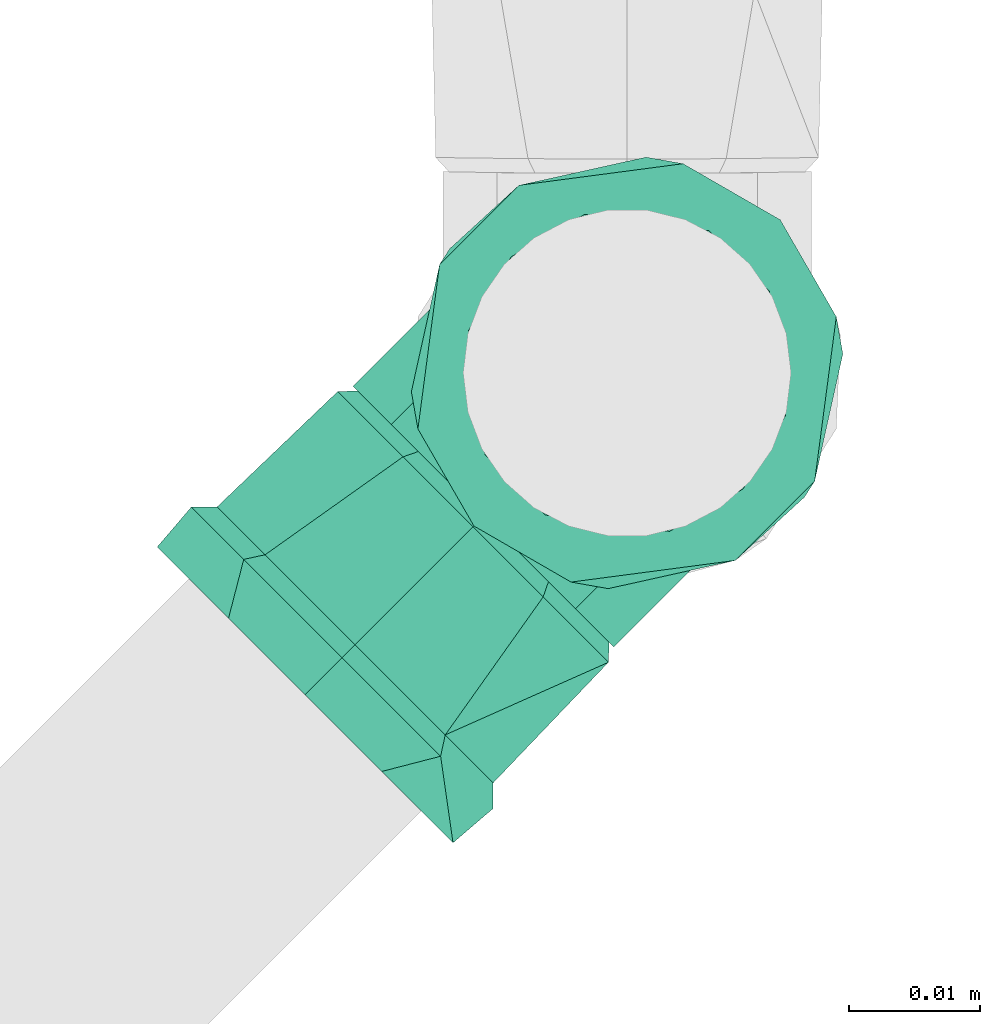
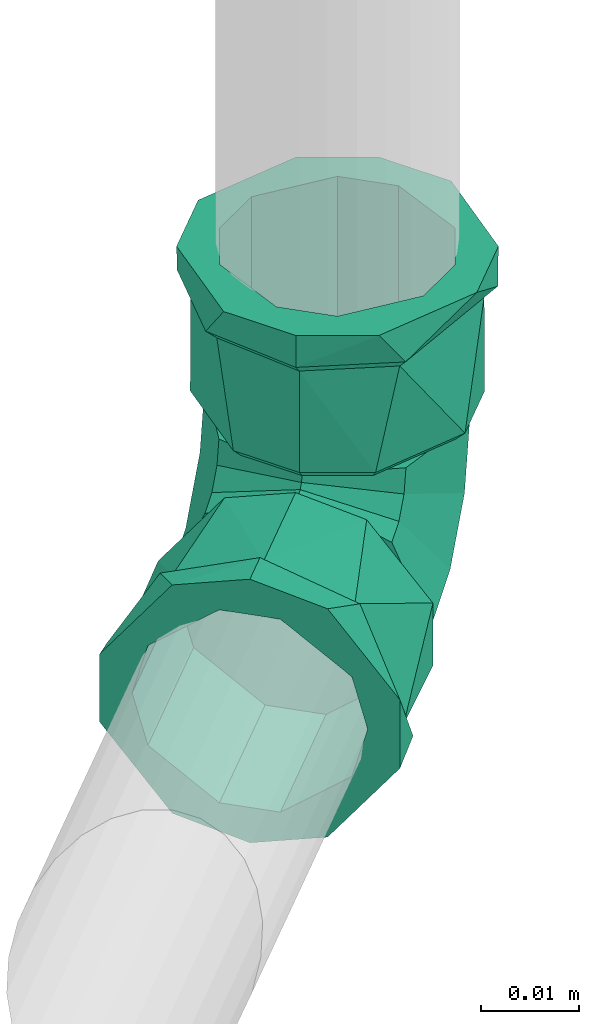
# One storey, part 335 of 589: 1 flow fitting.
"""IFC2X3 building model written with IfcOpenShell, lengths in millimetres."""

from ifc_helpers import new_model, entity, si_unit, converted_unit, derived_unit, direction, frame, origin, place, context, subcontext, project, spatial, faceted_brep, source, transform, mapped, material, type_object, type_shapes, element, save


model = new_model("IFC2X3")

# Units and contexts
model_context = context("Model", 3, precision=0.01, world=origin(), true_north=direction((6.123031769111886e-17, 1.0)))
body_context = subcontext(model_context, "Body", "Model", "MODEL_VIEW")
ifc_project = project(units=[si_unit("LENGTHUNIT", "METRE", prefix="MILLI"), si_unit("AREAUNIT", "SQUARE_METRE"), si_unit("VOLUMEUNIT", "CUBIC_METRE"), converted_unit("PLANEANGLEUNIT", "DEGREE", entity("IfcRatioMeasure", 0.017453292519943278), si_unit("PLANEANGLEUNIT", "RADIAN"), dimensions=[0, 0, 0, 0, 0, 0, 0]), si_unit("MASSUNIT", "GRAM", prefix="KILO"), derived_unit("MASSDENSITYUNIT", [(si_unit("MASSUNIT", "GRAM", prefix="KILO"), 1), (si_unit("LENGTHUNIT", "METRE"), -3)]), derived_unit("IONCONCENTRATIONUNIT", [(si_unit("MASSUNIT", "GRAM", prefix="KILO"), 1), (si_unit("LENGTHUNIT", "METRE"), -3)]), derived_unit("MOMENTOFINERTIAUNIT", [(si_unit("LENGTHUNIT", "METRE"), 4)]), si_unit("TIMEUNIT", "SECOND"), si_unit("FREQUENCYUNIT", "HERTZ"), si_unit("THERMODYNAMICTEMPERATUREUNIT", "DEGREE_CELSIUS"), derived_unit("THERMALTRANSMITTANCEUNIT", [(si_unit("MASSUNIT", "GRAM", prefix="KILO"), 1), (si_unit("THERMODYNAMICTEMPERATUREUNIT", "KELVIN"), -1), (si_unit("TIMEUNIT", "SECOND"), -3)]), derived_unit("THERMALCONDUCTANCEUNIT", [(si_unit("MASSUNIT", "GRAM", prefix="KILO"), 1), (si_unit("THERMODYNAMICTEMPERATUREUNIT", "KELVIN"), -1), (si_unit("TIMEUNIT", "SECOND"), -3), (si_unit("LENGTHUNIT", "METRE"), 1)]), derived_unit("VOLUMETRICFLOWRATEUNIT", [(si_unit("LENGTHUNIT", "METRE"), 3), (si_unit("TIMEUNIT", "SECOND"), -1)]), derived_unit("MASSFLOWRATEUNIT", [(si_unit("MASSUNIT", "GRAM", prefix="KILO"), 1), (si_unit("TIMEUNIT", "SECOND"), -1)]), derived_unit("ROTATIONALFREQUENCYUNIT", [(si_unit("TIMEUNIT", "SECOND"), -1)]), si_unit("ELECTRICCURRENTUNIT", "AMPERE"), si_unit("ELECTRICVOLTAGEUNIT", "VOLT"), si_unit("POWERUNIT", "WATT"), si_unit("FORCEUNIT", "NEWTON", prefix="KILO"), si_unit("ILLUMINANCEUNIT", "LUX"), si_unit("LUMINOUSFLUXUNIT", "LUMEN"), si_unit("LUMINOUSINTENSITYUNIT", "CANDELA"), derived_unit("USERDEFINED", [(si_unit("MASSUNIT", "GRAM", prefix="KILO"), -1), (si_unit("LENGTHUNIT", "METRE"), -2), (si_unit("TIMEUNIT", "SECOND"), 3), (si_unit("LUMINOUSFLUXUNIT", "LUMEN"), 1)]), derived_unit("USERDEFINED", [(si_unit("MASSUNIT", "GRAM", prefix="KILO"), 1), (si_unit("TIMEUNIT", "SECOND"), -3), (si_unit("LENGTHUNIT", "METRE"), 3), (si_unit("ELECTRICCURRENTUNIT", "AMPERE"), -2)]), derived_unit("SOUNDPOWERUNIT", [(si_unit("MASSUNIT", "GRAM", prefix="KILO"), 1), (si_unit("TIMEUNIT", "SECOND"), -3), (si_unit("LENGTHUNIT", "METRE"), 2)]), derived_unit("SOUNDPRESSUREUNIT", [(si_unit("MASSUNIT", "GRAM", prefix="KILO"), 1), (si_unit("LENGTHUNIT", "METRE"), -1), (si_unit("TIMEUNIT", "SECOND"), -2)]), derived_unit("LINEARVELOCITYUNIT", [(si_unit("LENGTHUNIT", "METRE"), 1), (si_unit("TIMEUNIT", "SECOND"), -1)]), si_unit("PRESSUREUNIT", "PASCAL"), derived_unit("USERDEFINED", [(si_unit("MASSUNIT", "GRAM", prefix="KILO"), 1), (si_unit("LENGTHUNIT", "METRE"), -2), (si_unit("TIMEUNIT", "SECOND"), -2)]), derived_unit("LINEARFORCEUNIT", [(si_unit("MASSUNIT", "GRAM", prefix="KILO"), 1), (si_unit("TIMEUNIT", "SECOND"), -2)]), derived_unit("PLANARFORCEUNIT", [(si_unit("MASSUNIT", "GRAM", prefix="KILO"), 1), (si_unit("LENGTHUNIT", "METRE"), -1), (si_unit("TIMEUNIT", "SECOND"), -2)]), derived_unit("SPECIFICHEATCAPACITYUNIT", [(si_unit("THERMODYNAMICTEMPERATUREUNIT", "KELVIN"), -1), (si_unit("LENGTHUNIT", "METRE"), 2), (si_unit("TIMEUNIT", "SECOND"), -2)]), derived_unit("HEATINGVALUEUNIT", [(si_unit("LENGTHUNIT", "METRE"), 2), (si_unit("TIMEUNIT", "SECOND"), -2)]), derived_unit("VAPORPERMEABILITYUNIT", [(si_unit("LENGTHUNIT", "METRE"), -1), (si_unit("TIMEUNIT", "SECOND"), 1)]), derived_unit("DYNAMICVISCOSITYUNIT", [(si_unit("MASSUNIT", "GRAM", prefix="KILO"), 1), (si_unit("TIMEUNIT", "SECOND"), -1), (si_unit("LENGTHUNIT", "METRE"), -1)]), derived_unit("THERMALEXPANSIONCOEFFICIENTUNIT", [(si_unit("THERMODYNAMICTEMPERATUREUNIT", "KELVIN"), -1)]), derived_unit("MODULUSOFELASTICITYUNIT", [(si_unit("MASSUNIT", "GRAM", prefix="KILO"), 1), (si_unit("LENGTHUNIT", "METRE"), -1), (si_unit("TIMEUNIT", "SECOND"), -2)]), derived_unit("ISOTHERMALMOISTURECAPACITYUNIT", [(si_unit("LENGTHUNIT", "METRE"), 3), (si_unit("MASSUNIT", "GRAM", prefix="KILO"), -1)]), derived_unit("MOISTUREDIFFUSIVITYUNIT", [(si_unit("TIMEUNIT", "SECOND"), -1), (si_unit("LENGTHUNIT", "METRE"), 2)])], contexts=[model_context])

# Site, building, storey
site_placement = place(None, origin())
site = spatial("IfcSite", under=ifc_project, at=site_placement, Name="Default", CompositionType="ELEMENT")
building_placement = place(site_placement, origin())
building = spatial("IfcBuilding", under=site, at=building_placement, CompositionType="ELEMENT")
storey_placement = place(building_placement, frame((0.0, 0.0, 100.0)))
storey = spatial("IfcBuildingStorey", under=building, at=storey_placement, Name="TÉRREO", CompositionType="ELEMENT", Elevation=100.0)

# Flow fitting
ifc_material = material(Name="PVC Marrom")
pipe_fitting_type = type_object("IfcPipeFittingType", Name="PVC Marrom Soldável_Joelho 45°_90°_Rodrigo MEP:Joelho", PredefinedType="NOTDEFINED", material=ifc_material)
shared_shape = source(origin(), body_context, "Body", "Brep", [
    faceted_brep([(3.908183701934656, 16.599981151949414, 14.585479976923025), (13.076999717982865, 16.599972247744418, 7.549999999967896), (15.10001612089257, 16.599970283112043, 0.0), (13.07699971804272, 16.599972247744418, -7.550000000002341), (3.9081837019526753, 16.599981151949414, -14.585479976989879), (-3.908151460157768, 16.59998874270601, -14.585479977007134), (-13.076967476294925, 16.59999764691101, -7.550000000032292), (-15.099983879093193, 16.59999961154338, 0.0), (-13.07696747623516, 16.59999764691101, 7.54999999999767), (-3.908151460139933, 16.59998874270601, 14.585479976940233), (-3.6338043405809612, 15.499988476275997, 13.561598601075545), (-12.15898161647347, 15.4999967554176, 7.019999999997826), (-14.039984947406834, 15.499998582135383, 0.0), (-12.158981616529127, 15.4999967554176, -7.020000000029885), (-3.633804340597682, 15.499988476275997, -13.56159860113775), (3.633834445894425, 15.499981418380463, -13.561598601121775), (12.159011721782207, 15.49997313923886, -7.0200000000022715), (14.040015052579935, 15.499971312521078, 0.0), (12.1590117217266, 15.49997313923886, 7.01999999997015), (3.633834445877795, 15.499981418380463, 13.561598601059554)], [[[0, 1, 2, 3, 4, 5, 6, 7, 8, 9]], [[10, 11, 12, 13, 14, 15, 16, 17, 18, 19]], [[3, 2, 17, 16]], [[4, 3, 16, 15]], [[15, 14, 5, 4]], [[6, 5, 14, 13]], [[7, 6, 13, 12]], [[8, 7, 12, 11]], [[9, 8, 11, 10]], [[10, 19, 0, 9]], [[1, 0, 19, 18]], [[2, 1, 18, 17]]]),
    faceted_brep([(-16.599984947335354, 3.908167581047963, 14.585479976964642), (-16.599984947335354, 13.076983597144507, 7.549999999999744), (-16.599984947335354, 15.100000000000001, 0.0), (-16.599984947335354, 13.076983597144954, -7.54999999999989), (-16.599984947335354, 3.9081675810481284, -14.58547997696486), (-16.599984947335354, -3.9081675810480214, -14.585479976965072), (-16.599984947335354, -13.0769835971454, -7.550000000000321), (-16.599984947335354, -15.099999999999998, 0.0), (-16.599984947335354, -13.076983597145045, 7.550000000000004), (-16.599984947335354, -3.908167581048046, 14.585479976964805), (-15.499984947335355, 12.158996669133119, 7.019999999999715), (-15.499984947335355, 3.6338193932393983, 13.561598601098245), (-15.499984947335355, -3.633819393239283, 13.56159860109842), (-15.499984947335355, -12.15899666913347, 7.020000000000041), (-15.499984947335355, -14.040000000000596, 0.0), (-15.499984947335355, -12.158996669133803, -7.020000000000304), (-15.499984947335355, -3.63381939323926, -13.561598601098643), (-15.499984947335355, 3.6338193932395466, -13.56159860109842), (-15.499984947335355, 12.158996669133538, -7.019999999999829), (-15.499984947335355, 14.03999999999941, 0.0)], [[[0, 1, 2, 3, 4, 5, 6, 7, 8, 9]], [[10, 11, 12, 13, 14, 15, 16, 17, 18, 19]], [[3, 2, 19, 18]], [[4, 3, 18, 17]], [[17, 16, 5, 4]], [[6, 5, 16, 15]], [[7, 6, 15, 14]], [[8, 7, 14, 13]], [[9, 8, 13, 12]], [[12, 11, 0, 9]], [[1, 0, 11, 10]], [[2, 1, 10, 19]]]),
    faceted_brep([(-34.69998494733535, -4.2705142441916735, -15.937776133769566), (-34.69998494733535, -6.250000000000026, -10.825317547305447), (-34.69998494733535, 0.0, -12.5), (-34.69998494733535, -14.289419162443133, -8.25000000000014), (-34.69998494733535, 4.270514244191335, -15.937776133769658), (-34.69998494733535, -12.074072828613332, -3.23523806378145), (-34.69998494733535, -16.499999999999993, 0.0), (-34.69998494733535, -12.074072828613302, 3.2352380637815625), (-34.69998494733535, -14.289419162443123, 8.249999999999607), (-34.69998494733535, -6.249999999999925, 10.825317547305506), (-34.69998494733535, -4.27051424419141, 15.937776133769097), (-34.69998494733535, 0.0, 12.5), (-34.69998494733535, 4.270514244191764, 15.937776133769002), (-34.69998494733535, 6.249999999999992, 10.825317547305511), (-34.69998494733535, 14.28941916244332, 8.249999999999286), (-34.69998494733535, 12.074072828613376, 3.2352380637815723), (-34.69998494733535, 16.500000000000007, 0.0), (-34.69998494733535, 12.074072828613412, -3.235238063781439), (-34.69998494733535, 14.289419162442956, -8.250000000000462), (-34.69998494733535, 6.250000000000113, -10.82531754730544), (-30.699984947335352, 16.5, 0.0), (-30.699984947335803, 12.639142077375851, 10.606700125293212), (-30.6999849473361, 2.8633833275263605, 16.249647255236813), (-30.699984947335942, -12.64180232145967, 10.603529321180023), (-30.699984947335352, -16.499999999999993, 0.0), (-30.699984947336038, -4.889209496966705, 13.426588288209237), (-30.69998494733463, -12.641802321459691, -10.603529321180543), (-30.69998494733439, -2.8674593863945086, -16.24892847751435), (-30.699984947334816, 12.639142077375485, -10.606700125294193), (-30.6999849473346, 4.885841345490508, -13.427814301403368), (-29.299984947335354, -15.099999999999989, 0.0), (-29.29998494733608, -11.56916454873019, 9.703835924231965), (-29.299984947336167, -4.474367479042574, 12.287362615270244), (-29.299984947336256, 2.6204295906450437, 14.870889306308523), (-29.29998494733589, 11.566730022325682, 9.706737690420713), (-29.29998494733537, 15.099999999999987, 0.0), (-29.299984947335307, 11.566730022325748, -9.706737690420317), (-29.29998494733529, 4.4712851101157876, -12.28848460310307), (-29.29998494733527, -2.6241598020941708, -14.870231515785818), (-29.299984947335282, -11.569164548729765, -9.703835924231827), (-16.599984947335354, 0.0, -12.5), (-16.599984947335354, -6.250000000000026, -10.825317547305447), (-16.599984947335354, -3.908167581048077, -14.585479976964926), (-16.599984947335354, 3.9081675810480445, -14.585479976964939), (-16.599984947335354, 6.250000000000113, -10.82531754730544), (-16.599984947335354, -13.076983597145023, -7.549999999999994), (-16.599984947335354, -12.074072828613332, -3.23523806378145), (-16.599984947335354, -15.099999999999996, 0.0), (-16.599984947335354, -12.074072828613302, 3.2352380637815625), (-16.599984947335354, -13.076983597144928, 7.550000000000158), (-16.599984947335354, -6.249999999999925, 10.825317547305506), (-16.599984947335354, -3.9081675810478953, 14.585479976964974), (-16.599984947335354, 0.0, 12.5), (-16.599984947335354, 3.9081675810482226, 14.58547997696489), (-16.599984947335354, 6.249999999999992, 10.825317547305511), (-16.599984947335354, 13.076983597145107, 7.549999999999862), (-16.599984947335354, 12.074072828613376, 3.2352380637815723), (-16.599984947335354, 15.100000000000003, 0.0), (-16.599984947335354, 12.074072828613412, -3.235238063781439), (-16.599984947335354, 13.076983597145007, -7.550000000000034)], [[[0, 1, 2]], [[1, 0, 3]], [[2, 4, 0]], [[3, 5, 1]], [[3, 6, 5]], [[5, 6, 7]], [[8, 7, 6]], [[7, 8, 9]], [[10, 9, 8]], [[9, 10, 11]], [[11, 10, 12]], [[12, 13, 11]], [[14, 13, 12]], [[13, 14, 15]], [[16, 15, 14]], [[16, 17, 15]], [[18, 17, 16]], [[19, 17, 18]], [[19, 18, 4]], [[4, 2, 19]], [[16, 14, 20]], [[14, 21, 20]], [[21, 14, 12]], [[21, 12, 22]], [[23, 10, 8]], [[24, 8, 6]], [[10, 23, 25, 22]], [[23, 8, 24]], [[10, 22, 12]], [[6, 3, 24]], [[3, 26, 24]], [[26, 3, 0]], [[26, 0, 27]], [[28, 4, 18]], [[20, 18, 16]], [[4, 28, 29, 27]], [[28, 18, 20]], [[4, 27, 0]], [[30, 31, 23, 24]], [[31, 32, 33, 22, 25, 23]], [[34, 35, 20, 21]], [[34, 21, 22, 33]], [[35, 36, 28, 20]], [[36, 37, 38, 27, 29, 28]], [[39, 30, 24, 26]], [[39, 26, 27, 38]], [[40, 41, 42]], [[42, 43, 40]], [[44, 40, 43]], [[45, 42, 41]], [[41, 46, 45]], [[46, 47, 45]], [[48, 47, 46]], [[47, 48, 49]], [[50, 49, 48]], [[49, 50, 51]], [[52, 51, 50]], [[53, 51, 52]], [[52, 54, 53]], [[53, 54, 55]], [[56, 55, 54]], [[55, 56, 57]], [[56, 58, 57]], [[59, 58, 44]], [[57, 58, 59]], [[43, 59, 44]], [[35, 34, 55]], [[35, 55, 57]], [[55, 34, 53]], [[34, 33, 53]], [[51, 33, 32, 31]], [[49, 31, 30]], [[31, 49, 51]], [[49, 30, 47]], [[33, 51, 53]], [[30, 39, 45]], [[30, 45, 47]], [[45, 39, 42]], [[39, 38, 42]], [[43, 38, 37, 36]], [[59, 36, 35]], [[36, 59, 43]], [[59, 35, 57]], [[38, 43, 42]], [[9, 11, 52, 50]], [[7, 9, 50, 48]], [[48, 46, 5, 7]], [[1, 5, 46, 41]], [[2, 1, 41, 40]], [[19, 2, 40, 44]], [[17, 19, 44, 58]], [[58, 56, 15, 17]], [[13, 15, 56, 54]], [[11, 13, 54, 52]]]),
    faceted_brep([(-0.7299932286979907, -10.082395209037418, 0.0), (-2.7861024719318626, -6.521106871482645, 9.92777920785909), (-15.499984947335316, -9.927779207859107, 9.92777920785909), (-15.499984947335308, -14.039999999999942, 0.0), (-7.749989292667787, 2.0766037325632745, 14.04), (-15.499984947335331, 0.0, 14.04), (-12.713876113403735, 10.674314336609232, 9.927779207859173), (-15.49998494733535, 9.927779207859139, 9.927779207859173), (-14.769985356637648, 14.23560267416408, 0.0), (-15.499984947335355, 14.040000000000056, 0.0), (-12.71387611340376, 10.674314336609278, -9.92777920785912), (-15.49998494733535, 9.927779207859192, -9.92777920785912), (-7.749989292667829, 2.0766037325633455, -14.04), (-15.499984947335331, 0.0, -14.04), (-2.78610247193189, -6.521106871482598, -9.927779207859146), (-15.499984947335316, -9.927779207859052, -9.927779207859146), (10.082395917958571, 0.7299834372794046, 0.0), (6.521109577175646, 2.786096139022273, 9.92777920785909), (-2.0765962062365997, 7.749991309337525, 14.04), (-10.674301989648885, 12.713886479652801, 9.927779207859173), (-14.235588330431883, 14.769999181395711, 0.0), (-10.674301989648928, 12.713886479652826, -9.92777920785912), (-2.0765962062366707, 7.749991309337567, -14.04), (6.521109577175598, 2.7860961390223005, -9.927779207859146), (14.040015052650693, 15.499971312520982, 0.0), (9.927794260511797, 15.499975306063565, 9.92777920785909), (1.5052657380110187e-05, 15.499984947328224, 14.04), (-9.927764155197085, 15.499994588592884, 9.927779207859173), (-14.039984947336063, 15.499998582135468, 0.0), (-9.927764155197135, 15.499994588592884, -9.92777920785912), (1.5052657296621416e-05, 15.499984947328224, -14.04), (9.927794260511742, 15.499975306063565, -9.927779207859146)], [[[0, 1, 2, 3]], [[1, 4, 5, 2]], [[4, 6, 7, 5]], [[6, 8, 9, 7]], [[8, 10, 11, 9]], [[10, 12, 13, 11]], [[12, 14, 15, 13]], [[14, 0, 3, 15]], [[16, 17, 1, 0]], [[17, 18, 4, 1]], [[18, 19, 6, 4]], [[19, 20, 8, 6]], [[20, 21, 10, 8]], [[21, 22, 12, 10]], [[22, 23, 14, 12]], [[23, 16, 0, 14]], [[24, 25, 17, 16]], [[25, 26, 18, 17]], [[26, 27, 19, 18]], [[27, 28, 20, 19]], [[28, 29, 21, 20]], [[29, 30, 22, 21]], [[30, 31, 23, 22]], [[31, 24, 16, 23]], [[3, 2, 5, 7, 9, 11, 13, 15]], [[31, 30, 29, 28, 27, 26, 25, 24]]]),
    faceted_brep([(1.612091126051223e-05, 16.599984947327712, -12.5), (-6.2499838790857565, 16.599991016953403, -10.825317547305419), (-3.908151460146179, 16.59998874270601, -14.585479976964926), (3.908183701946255, 16.599981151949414, -14.585479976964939), (6.250016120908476, 16.59997887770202, -10.825317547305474), (-13.076967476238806, 16.59999764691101, -7.549999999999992), (-12.07405670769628, 16.599996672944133, -3.2352380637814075), (-15.099983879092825, 16.59999961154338, 0.0), (-12.07405670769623, 16.599996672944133, 3.235238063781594), (-13.07696747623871, 16.59999764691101, 7.550000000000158), (-6.2499838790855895, 16.599991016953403, 10.825317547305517), (-3.908151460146, 16.59998874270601, 14.585479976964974), (1.612091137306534e-05, 16.599984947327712, 12.5), (3.9081837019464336, 16.599981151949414, 14.58547997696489), (6.250016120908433, 16.59997887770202, 10.8253175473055), (13.076999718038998, 16.599972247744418, 7.549999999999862), (12.074088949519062, 16.59997322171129, 3.2352380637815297), (15.100016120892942, 16.599970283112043, 0.0), (12.074088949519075, 16.59997322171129, -3.2352380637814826), (13.0769997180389, 16.599972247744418, -7.550000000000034), (15.100028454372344, 29.299970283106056, 0.0), (11.566758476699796, 29.299973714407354, 9.706737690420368), (4.471313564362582, 29.29998060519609, 12.288484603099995), (-2.624131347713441, 29.29998749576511, 14.870231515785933), (-11.569136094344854, 29.299996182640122, 9.703835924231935), (-15.099971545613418, 29.299999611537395, 0.0), (-11.569136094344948, 29.299996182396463, -9.703835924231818), (-4.474339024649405, 29.299989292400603, -12.287362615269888), (2.6204580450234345, 29.299982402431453, -14.870889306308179), (11.56675847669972, 29.299973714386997, -9.706737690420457), (-12.639112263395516, 30.699997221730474, 10.606700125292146), (-16.499970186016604, 30.70000097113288, 0.0), (-2.8633535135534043, 30.69998772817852, 16.249647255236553), (12.64183213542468, 30.699972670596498, 10.603529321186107), (4.889239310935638, 30.699980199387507, 13.426588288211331), (16.500029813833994, 30.69996892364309, 0.0), (12.641832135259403, 30.69997267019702, -10.603529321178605), (2.8674892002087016, 30.699982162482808, -16.248928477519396), (-12.639112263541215, 30.699997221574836, -10.606700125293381), (-4.885811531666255, 30.699989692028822, -13.427814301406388), (-4.2704805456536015, 34.69998909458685, -15.937776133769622), (-6.249966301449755, 34.699991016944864, -10.825317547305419), (3.369854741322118e-05, 34.69998494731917, -12.5), (-14.289385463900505, 34.699998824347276, -8.249999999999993), (4.270547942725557, 34.6999808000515, -15.937776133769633), (-12.074039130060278, 34.69999667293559, -3.2352380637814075), (-16.49996630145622, 34.70000097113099, 0.0), (-12.074039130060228, 34.69999667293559, 3.235238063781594), (-14.289385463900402, 34.699998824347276, 8.250000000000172), (-6.2499663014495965, 34.699991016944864, 10.825317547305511), (-4.2704805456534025, 34.69998909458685, 15.937776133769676), (3.3698547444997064e-05, 34.69998494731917, 12.5), (4.270547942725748, 34.6999808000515, 15.937776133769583), (6.250033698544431, 34.69997887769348, 10.825317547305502), (14.289452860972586, 34.69997107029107, 8.24999999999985), (12.074106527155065, 34.699973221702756, 3.2352380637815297), (16.50003369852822, 34.699968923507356, 0.0), (12.074106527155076, 34.699973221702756, -3.235238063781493), (14.289452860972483, 34.69997107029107, -8.250000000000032), (6.250033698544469, 34.69997887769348, -10.825317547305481)], [[[0, 1, 2]], [[2, 3, 0]], [[4, 0, 3]], [[5, 2, 1]], [[1, 6, 5]], [[6, 7, 5]], [[8, 7, 6]], [[7, 8, 9]], [[10, 9, 8]], [[9, 10, 11]], [[12, 11, 10]], [[13, 11, 12]], [[12, 14, 13]], [[13, 14, 15]], [[16, 15, 14]], [[15, 16, 17]], [[16, 18, 17]], [[19, 18, 4]], [[17, 18, 19]], [[3, 19, 4]], [[20, 21, 15]], [[20, 15, 17]], [[15, 21, 13]], [[13, 21, 22, 23]], [[11, 23, 24]], [[9, 24, 25]], [[24, 9, 11]], [[9, 25, 7]], [[23, 11, 13]], [[25, 26, 5]], [[25, 5, 7]], [[5, 26, 2]], [[2, 26, 27, 28]], [[3, 28, 29]], [[19, 29, 20]], [[29, 19, 3]], [[19, 20, 17]], [[28, 3, 2]], [[24, 23, 30]], [[25, 24, 31]], [[31, 24, 30]], [[23, 32, 30]], [[21, 20, 33]], [[21, 33, 34]], [[22, 32, 23]], [[35, 33, 20]], [[32, 22, 34]], [[22, 21, 34]], [[20, 29, 36]], [[36, 35, 20]], [[37, 36, 29]], [[38, 39, 27]], [[29, 28, 37]], [[26, 25, 31]], [[38, 27, 26]], [[38, 26, 31]], [[28, 39, 37]], [[39, 28, 27]], [[40, 41, 42]], [[41, 40, 43]], [[42, 44, 40]], [[43, 45, 41]], [[43, 46, 45]], [[45, 46, 47]], [[48, 47, 46]], [[47, 48, 49]], [[50, 49, 48]], [[49, 50, 51]], [[51, 50, 52]], [[52, 53, 51]], [[54, 53, 52]], [[53, 54, 55]], [[56, 55, 54]], [[56, 57, 55]], [[58, 57, 56]], [[59, 57, 58]], [[59, 58, 44]], [[44, 42, 59]], [[56, 54, 35]], [[54, 33, 35]], [[33, 54, 52]], [[52, 32, 34, 33]], [[30, 50, 48]], [[31, 48, 46]], [[50, 30, 32]], [[30, 48, 31]], [[50, 32, 52]], [[46, 43, 31]], [[43, 38, 31]], [[38, 43, 40]], [[40, 37, 39, 38]], [[36, 44, 58]], [[35, 58, 56]], [[44, 36, 37]], [[36, 58, 35]], [[44, 37, 40]], [[49, 51, 12, 10]], [[47, 49, 10, 8]], [[8, 6, 45, 47]], [[41, 45, 6, 1]], [[42, 41, 1, 0]], [[59, 42, 0, 4]], [[57, 59, 4, 18]], [[18, 16, 55, 57]], [[53, 55, 16, 14]], [[51, 53, 14, 12]]]),
])
type_shapes(pipe_fitting_type, [shared_shape])
flow_fitting_placement = place(storey_placement, frame((405.669184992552, -7119.822430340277, -37.35698026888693), z_axis=(-0.7071067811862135, 0.7071067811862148, -9.711401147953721e-07), x_axis=(0.0, -1.3733995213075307e-06, -1.0)))
element("IfcFlowFitting", 1, at=flow_fitting_placement, inside=storey, type_object=pipe_fitting_type, material=ifc_material, Name="PVC Marrom Soldável_Joelho 45°_90°_Rodrigo MEP:Joelho", ObjectType="PVC Marrom Soldável_Joelho 45°_90°_Rodrigo MEP:Joelho", context=body_context, shape_type="MappedRepresentation", body=[
    mapped(shared_shape, transform((0.0, 0.0, 0.0), scale=1.0)),
])

save(model, "model.ifc")
